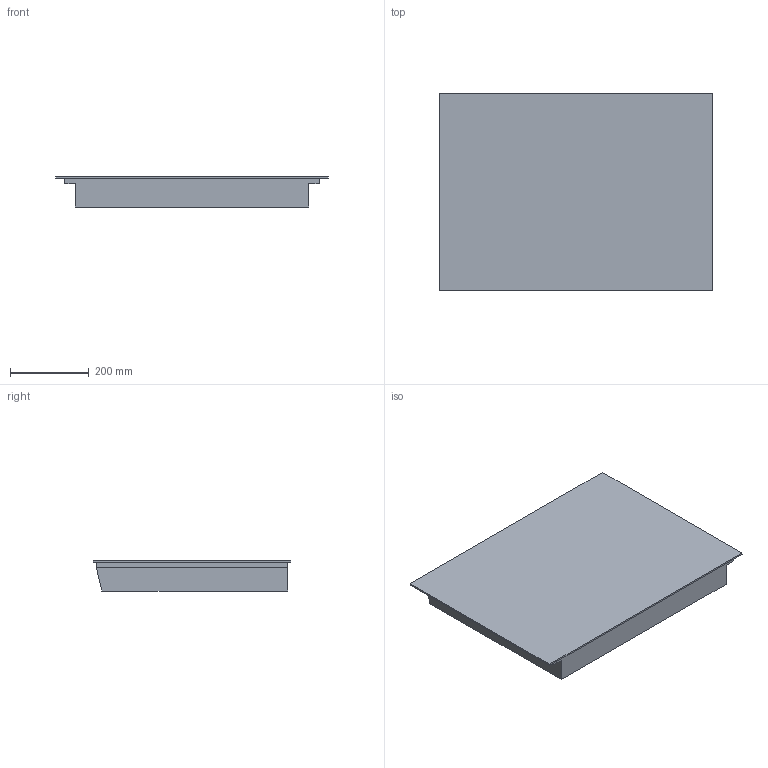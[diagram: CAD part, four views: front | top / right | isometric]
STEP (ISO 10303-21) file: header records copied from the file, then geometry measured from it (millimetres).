
FILE_DESCRIPTION(/* description */ (''),/* implementation_level */ '2;1');
FILE_NAME(/* name */ 'X3113200001',/* time_stamp */ '2019-07-10T18:07:54+02:00',/* author */ (''),/* organization */ (''),/* preprocessor_version */ 'ST-DEVELOPER v15',/* originating_system */ '',/* authorisation */ '');
FILE_SCHEMA (('AUTOMOTIVE_DESIGN'));
Length unit declared in the file: millimetre
Products named in the file (1): Document
Bounding box: 691 x 501 x 76.1 mm (x, y, z)
Surface area: 850553.4 mm2 (no closed solid volume)
Topology: 0 solids, 2 shells, 20 faces, 57 edges, 40 vertices
Faces by surface type: plane 16, bspline 4
Entity records: 600 total; most frequent: CARTESIAN_POINT 208, ORIENTED_EDGE 98, EDGE_CURVE 57, B_SPLINE_CURVE_WITH_KNOTS 42, VERTEX_POINT 40, EDGE_LOOP 21, ADVANCED_FACE 20, FACE_OUTER_BOUND 20
